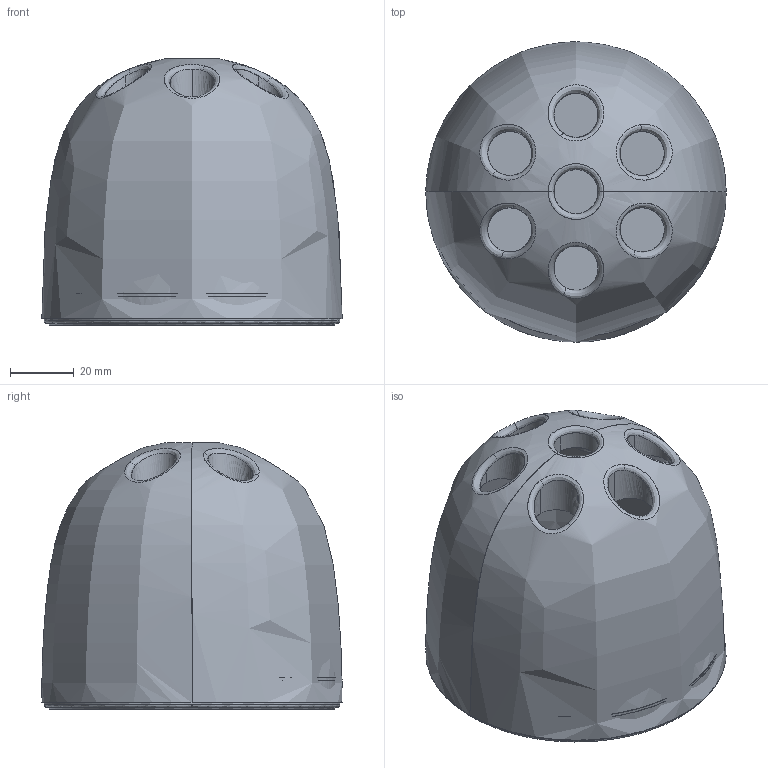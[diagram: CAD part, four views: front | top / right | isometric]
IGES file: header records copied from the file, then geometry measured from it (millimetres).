
Global section: file name: C:\Users\colombo_c\Desktop\Danese\Sito\3D mancanti\Dedalino\Dedalino.igs; native system: Rhinoceros ( Apr 16 2024 ); preprocessor: Trout Lake IGES 012 Apr 16 2024; date: 250710.071048; units: millimetre
Bounding box: 94.4 x 94.4 x 83.69 mm (x, y, z)
Surface area: 72862.8 mm2 (no closed solid volume)
Topology: 0 solids, 0 shells, 1372 faces, 13881 edges, 13881 vertices
Faces by surface type: bspline 1372
